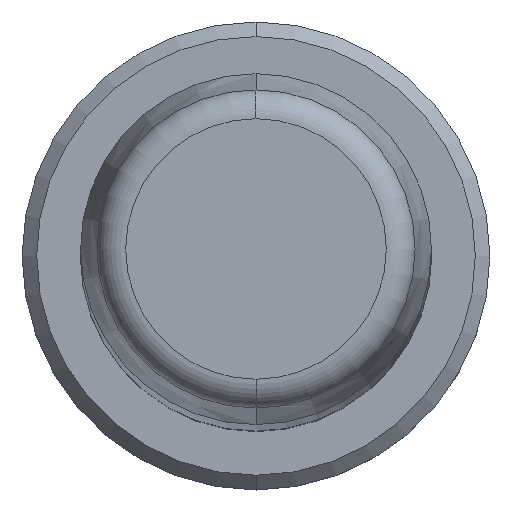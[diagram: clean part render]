
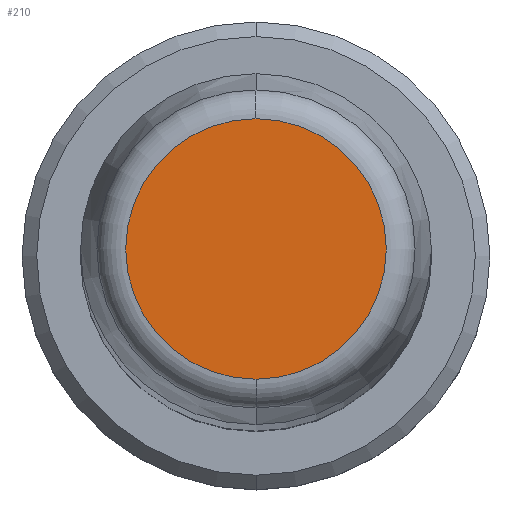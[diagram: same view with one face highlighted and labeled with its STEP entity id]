
A CAD part, top view. The second image highlights one B-rep face of the part: STEP entity #210.
In plain terms, the highlighted planar face has unit normal (0, 0, 1).
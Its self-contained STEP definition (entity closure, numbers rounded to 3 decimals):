
#1=CARTESIAN_POINT('',(0.,0.,140.));
#2=DIRECTION('',(0.,0.,-1.));
#3=DIRECTION('',(0.,-1.,0.));
#4=AXIS2_PLACEMENT_3D('',#1,#2,#3);
#6=CARTESIAN_POINT('',(0.,0.,140.));
#7=DIRECTION('',(0.,0.,-1.));
#8=DIRECTION('',(0.,1.,0.));
#9=AXIS2_PLACEMENT_3D('',#6,#7,#8);
#183=CARTESIAN_POINT('',(0.,-4.456,140.));
#184=CARTESIAN_POINT('',(0.,4.456,140.));
#185=VERTEX_POINT('',#183);
#186=VERTEX_POINT('',#184);
#199=CARTESIAN_POINT('',(0.,0.,140.));
#200=DIRECTION('',(0.,0.,1.));
#201=DIRECTION('',(0.,-1.,0.));
#202=AXIS2_PLACEMENT_3D('',#199,#200,#201);
#203=PLANE('',#202);
#205=ORIENTED_EDGE('',*,*,#204,.T.);
#207=ORIENTED_EDGE('',*,*,#206,.T.);
#208=EDGE_LOOP('',(#205,#207));
#209=FACE_OUTER_BOUND('',#208,.F.);
#210=ADVANCED_FACE('',(#209),#203,.T.);
#5=CIRCLE('',#4,4.456);
#10=CIRCLE('',#9,4.456);
#204=EDGE_CURVE('',#185,#186,#5,.T.);
#206=EDGE_CURVE('',#186,#185,#10,.T.);
